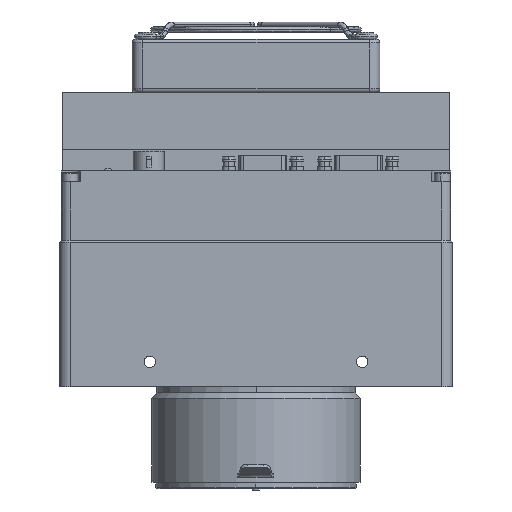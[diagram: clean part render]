
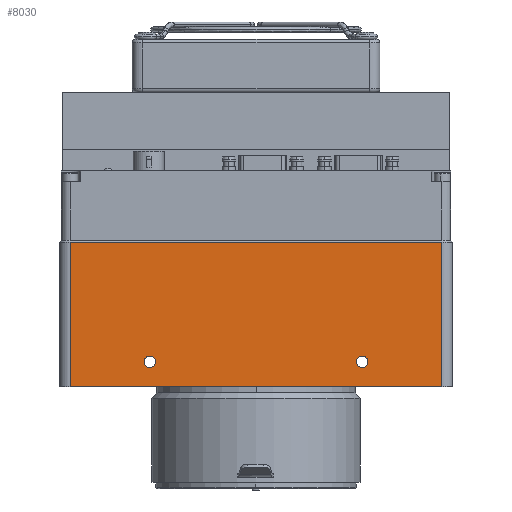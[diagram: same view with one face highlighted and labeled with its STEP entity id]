
A CAD part, front view. The second image highlights one B-rep face of the part: STEP entity #8030.
In plain terms, the highlighted planar face has unit normal (0, -1, 0).
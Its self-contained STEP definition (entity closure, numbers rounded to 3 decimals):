
#1956 = ORIENTED_EDGE ( 'NONE', *, *, #3087, .T. ) ;
#2464 = VERTEX_POINT ( 'NONE', #41801 ) ;
#2633 = ORIENTED_EDGE ( 'NONE', *, *, #14948, .T. ) ;
#2770 = EDGE_LOOP ( 'NONE', ( #14972, #12702 ) ) ;
#3087 = EDGE_CURVE ( 'NONE', #17032, #2464, #21086, .T. ) ;
#3462 = DIRECTION ( 'NONE',  ( 0., 0., -1. ) ) ;
#3515 = DIRECTION ( 'NONE',  ( 0., 0., -1. ) ) ;
#4216 = EDGE_CURVE ( 'NONE', #18015, #22069, #4604, .T. ) ;
#4522 = CIRCLE ( 'NONE', #40501, 1.65 ) ;
#4604 = CIRCLE ( 'NONE', #39714, 1.65 ) ;
#5168 = DIRECTION ( 'NONE',  ( 0., 0., -1. ) ) ;
#5426 = CARTESIAN_POINT ( 'NONE',  ( -52.5, -55.5, -9. ) ) ;
#6417 = CIRCLE ( 'NONE', #30720, 1.65 ) ;
#6661 = EDGE_LOOP ( 'NONE', ( #1956, #20289, #2633, #32194 ) ) ;
#6750 = AXIS2_PLACEMENT_3D ( 'NONE', #32009, #11947, #5168 ) ;
#8030 = ADVANCED_FACE ( 'NONE', ( #13369, #24875, #8749 ), #35316, .F. ) ;
#8263 = EDGE_CURVE ( 'NONE', #2464, #26538, #16971, .T. ) ;
#8749 = FACE_OUTER_BOUND ( 'NONE', #6661, .T. ) ;
#9629 = DIRECTION ( 'NONE',  ( 0., -1., 0. ) ) ;
#9870 = CARTESIAN_POINT ( 'NONE',  ( -52.5, -55.5, 31.8 ) ) ;
#11947 = DIRECTION ( 'NONE',  ( 0., -1., 0. ) ) ;
#12702 = ORIENTED_EDGE ( 'NONE', *, *, #4216, .F. ) ;
#13216 = CARTESIAN_POINT ( 'NONE',  ( -30., -55.5, -2. ) ) ;
#13369 = FACE_BOUND ( 'NONE', #2770, .T. ) ;
#13826 = DIRECTION ( 'NONE',  ( 0., 0., 1. ) ) ;
#13951 = AXIS2_PLACEMENT_3D ( 'NONE', #38909, #28943, #32425 ) ;
#14116 = EDGE_CURVE ( 'NONE', #34866, #36762, #4522, .T. ) ;
#14948 = EDGE_CURVE ( 'NONE', #26538, #19264, #25816, .T. ) ;
#14972 = ORIENTED_EDGE ( 'NONE', *, *, #33904, .F. ) ;
#15109 = DIRECTION ( 'NONE',  ( 0., 0., -1. ) ) ;
#15463 = CARTESIAN_POINT ( 'NONE',  ( -30., -55.5, -3.65 ) ) ;
#16971 = LINE ( 'NONE', #39895, #33033 ) ;
#17032 = VERTEX_POINT ( 'NONE', #31958 ) ;
#17847 = EDGE_CURVE ( 'NONE', #19264, #17032, #27160, .T. ) ;
#17962 = VECTOR ( 'NONE', #13826, 1000. ) ;
#18015 = VERTEX_POINT ( 'NONE', #28319 ) ;
#19264 = VERTEX_POINT ( 'NONE', #5426 ) ;
#19657 = CARTESIAN_POINT ( 'NONE',  ( 30., -55.5, -3.65 ) ) ;
#20289 = ORIENTED_EDGE ( 'NONE', *, *, #8263, .T. ) ;
#21086 = LINE ( 'NONE', #33599, #17962 ) ;
#21205 = DIRECTION ( 'NONE',  ( 0., 0., -1. ) ) ;
#21427 = CIRCLE ( 'NONE', #6750, 1.65 ) ;
#22069 = VERTEX_POINT ( 'NONE', #15463 ) ;
#23156 = ORIENTED_EDGE ( 'NONE', *, *, #14116, .F. ) ;
#24383 = CARTESIAN_POINT ( 'NONE',  ( 58., -55.5, -9. ) ) ;
#24443 = DIRECTION ( 'NONE',  ( 1., 0., 0. ) ) ;
#24875 = FACE_BOUND ( 'NONE', #40247, .T. ) ;
#25816 = LINE ( 'NONE', #38181, #28347 ) ;
#26538 = VERTEX_POINT ( 'NONE', #9870 ) ;
#27160 = LINE ( 'NONE', #24383, #34921 ) ;
#27188 = DIRECTION ( 'NONE',  ( -1., 0., 0. ) ) ;
#28177 = CARTESIAN_POINT ( 'NONE',  ( -30., -55.5, -2. ) ) ;
#28319 = CARTESIAN_POINT ( 'NONE',  ( -30., -55.5, -0.35 ) ) ;
#28347 = VECTOR ( 'NONE', #15109, 1000. ) ;
#28754 = ORIENTED_EDGE ( 'NONE', *, *, #42198, .F. ) ;
#28943 = DIRECTION ( 'NONE',  ( 0., 1., 0. ) ) ;
#30720 = AXIS2_PLACEMENT_3D ( 'NONE', #28177, #41007, #21205 ) ;
#31958 = CARTESIAN_POINT ( 'NONE',  ( 52.5, -55.5, -9. ) ) ;
#32009 = CARTESIAN_POINT ( 'NONE',  ( 30., -55.5, -2. ) ) ;
#32194 = ORIENTED_EDGE ( 'NONE', *, *, #17847, .T. ) ;
#32415 = CARTESIAN_POINT ( 'NONE',  ( 30., -55.5, -0.35 ) ) ;
#32425 = DIRECTION ( 'NONE',  ( -1., 0., 0. ) ) ;
#33033 = VECTOR ( 'NONE', #27188, 1000. ) ;
#33494 = CARTESIAN_POINT ( 'NONE',  ( 30., -55.5, -2. ) ) ;
#33599 = CARTESIAN_POINT ( 'NONE',  ( 52.5, -55.5, 31.18 ) ) ;
#33904 = EDGE_CURVE ( 'NONE', #22069, #18015, #6417, .T. ) ;
#34866 = VERTEX_POINT ( 'NONE', #19657 ) ;
#34921 = VECTOR ( 'NONE', #24443, 1000. ) ;
#35316 = PLANE ( 'NONE',  #13951 ) ;
#36762 = VERTEX_POINT ( 'NONE', #32415 ) ;
#36801 = DIRECTION ( 'NONE',  ( 0., -1., 0. ) ) ;
#38181 = CARTESIAN_POINT ( 'NONE',  ( -52.5, -55.5, 31.18 ) ) ;
#38909 = CARTESIAN_POINT ( 'NONE',  ( 58., -55.5, 31.18 ) ) ;
#39714 = AXIS2_PLACEMENT_3D ( 'NONE', #13216, #9629, #3515 ) ;
#39895 = CARTESIAN_POINT ( 'NONE',  ( -55., -55.5, 31.8 ) ) ;
#40247 = EDGE_LOOP ( 'NONE', ( #23156, #28754 ) ) ;
#40501 = AXIS2_PLACEMENT_3D ( 'NONE', #33494, #36801, #3462 ) ;
#41007 = DIRECTION ( 'NONE',  ( 0., -1., 0. ) ) ;
#41801 = CARTESIAN_POINT ( 'NONE',  ( 52.5, -55.5, 31.8 ) ) ;
#42198 = EDGE_CURVE ( 'NONE', #36762, #34866, #21427, .T. ) ;
